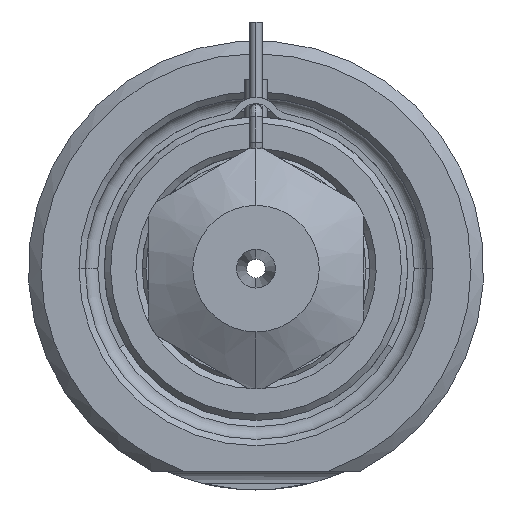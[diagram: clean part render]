
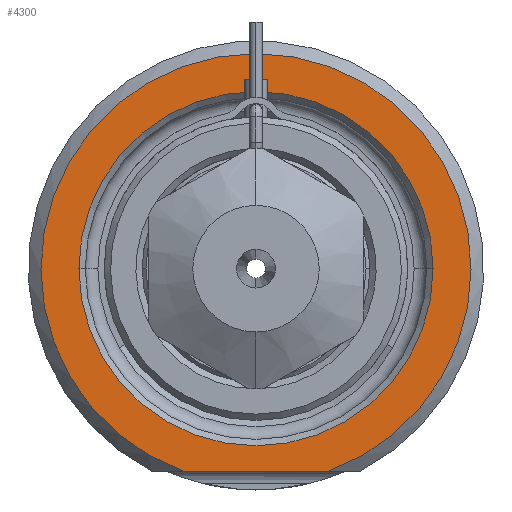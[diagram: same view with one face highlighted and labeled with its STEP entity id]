
A CAD part, front view. The second image highlights one B-rep face of the part: STEP entity #4300.
In plain terms, the highlighted planar face has unit normal (0, -1, 0).
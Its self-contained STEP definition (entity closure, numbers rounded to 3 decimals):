
#1365=CARTESIAN_POINT('',(0.,0.,0.));
#1366=DIRECTION('',(0.,-1.,0.));
#1367=DIRECTION('',(0.338,0.,-0.941));
#1368=AXIS2_PLACEMENT_3D('',#1365,#1366,#1367);
#1389=DIRECTION('',(1.,0.,0.));
#1390=VECTOR('',#1389,11.489);
#1391=CARTESIAN_POINT('',(-5.745,0.,-16.));
#1392=LINE('',#1391,#1390);
#1393=CARTESIAN_POINT('',(0.,0.,0.));
#1394=DIRECTION('',(0.,1.,0.));
#1395=DIRECTION('',(-1.,0.,0.));
#1396=AXIS2_PLACEMENT_3D('',#1393,#1394,#1395);
#1398=CARTESIAN_POINT('',(0.,0.,0.));
#1399=DIRECTION('',(0.,1.,0.));
#1400=DIRECTION('',(1.,0.,0.));
#1401=AXIS2_PLACEMENT_3D('',#1398,#1399,#1400);
#2302=CARTESIAN_POINT('',(-14.,0.,0.));
#2303=CARTESIAN_POINT('',(14.,0.,0.));
#2304=VERTEX_POINT('',#2302);
#2305=VERTEX_POINT('',#2303);
#2342=CARTESIAN_POINT('',(-5.745,0.,-16.));
#2343=CARTESIAN_POINT('',(5.745,0.,-16.));
#2344=VERTEX_POINT('',#2342);
#2345=VERTEX_POINT('',#2343);
#4285=CARTESIAN_POINT('',(0.,0.,0.));
#4286=DIRECTION('',(0.,-1.,0.));
#4287=DIRECTION('',(1.,0.,0.));
#4288=AXIS2_PLACEMENT_3D('',#4285,#4286,#4287);
#4289=PLANE('',#4288);
#4290=ORIENTED_EDGE('',*,*,#4217,.F.);
#4291=ORIENTED_EDGE('',*,*,#4277,.F.);
#4292=EDGE_LOOP('',(#4290,#4291));
#4293=FACE_OUTER_BOUND('',#4292,.F.);
#4295=ORIENTED_EDGE('',*,*,#4294,.F.);
#4297=ORIENTED_EDGE('',*,*,#4296,.F.);
#4298=EDGE_LOOP('',(#4295,#4297));
#4299=FACE_BOUND('',#4298,.F.);
#4300=ADVANCED_FACE('',(#4293,#4299),#4289,.T.);
#1369=CIRCLE('',#1368,17.);
#1397=CIRCLE('',#1396,14.);
#1402=CIRCLE('',#1401,14.);
#4217=EDGE_CURVE('',#2344,#2345,#1392,.T.);
#4277=EDGE_CURVE('',#2345,#2344,#1369,.T.);
#4294=EDGE_CURVE('',#2304,#2305,#1397,.T.);
#4296=EDGE_CURVE('',#2305,#2304,#1402,.T.);
